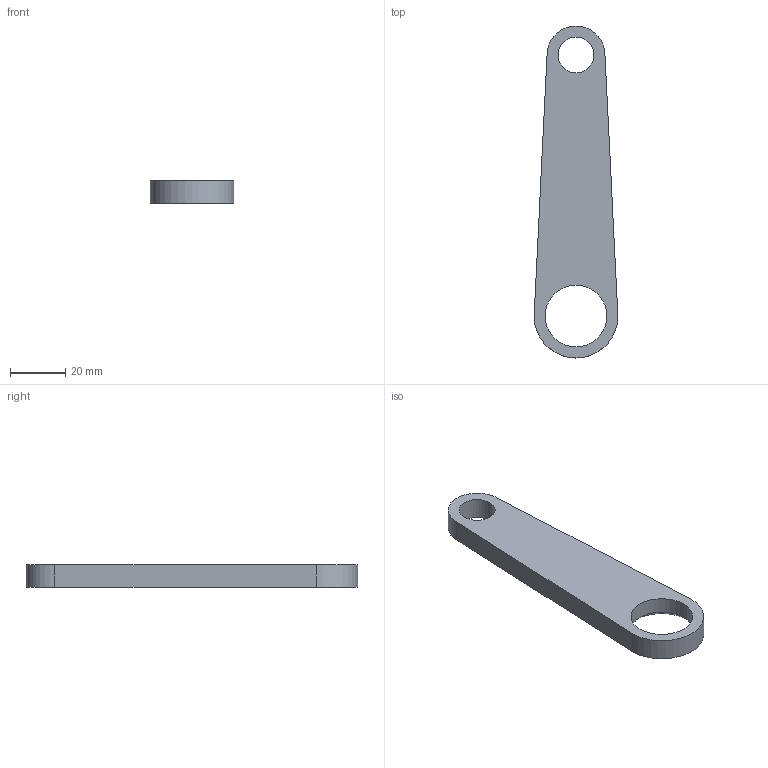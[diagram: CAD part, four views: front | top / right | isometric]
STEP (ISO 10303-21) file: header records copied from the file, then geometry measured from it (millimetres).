
FILE_DESCRIPTION(('STEP AP242 Edition 2','STEP AP242 Edition 2''CAx-IF Rec.Pracs.---Representation and Presentation of Product Manufacturing Information (PMI)---4.0---2014-10-13','STEP AP242 Edition 2''CAx-IF Rec.Pracs.---Representation and Presentation of Product Manufacturing Information (PMI)---4.0---2014-10-13''CAx-IF Rec.Pracs.---3D Tessellated Geometry---0.4---2014-09-14','STEP AP242 Edition 2''CAx-IF Rec.Pracs.---Representation and Presentation of Product Manufacturing Information (PMI)---4.0---2014-10-13''CAx-IF Rec.Pracs.---3D Tessellated Geometry---0.4---2014-09-14''2;1','STEP AP242 Edition 2''CAx-IF Rec.Pracs.---Representation and Presentation of Product Manufacturing Information (PMI)---4.0---2014-10-13''CAx-IF Rec.Pracs.---3D Tessellated Geometry---0.4---2014-09-14''2;1''CAx-IF Rec.Pracs.---User Defined Attributes---1.5---2016-08-15'),'2;1');
FILE_NAME('/vol/tmp/translate-1775843114321225475/Draw Bot V2 - L - L2 Arm.step','2026-03-21T23:30:43',(''),(''),'ST-DEVELOPER v20','ONSHAPE BY PTC INC, 1.212',' ');
FILE_SCHEMA(('AP242_MANAGED_MODEL_BASED_3D_ENGINEERING_MIM_LF { 1 0 10303 442 3 1 4 }'));
Length unit declared in the file: millimetre
Products named in the file (1): L - L2 Arm
Bounding box: 30.4 x 120.4 x 8 mm (x, y, z)
Volume: 19395.5 mm3; surface area: 7861.6 mm2
Topology: 1 solids, 1 shells, 9 faces, 20 edges, 13 vertices
Faces by surface type: plane 4, cylinder 4, cone 1
Full cylindrical faces by diameter (mm): 13 x1, 22.4 x1
Entity records: 270 total; most frequent: DIRECTION 46, CARTESIAN_POINT 40, ORIENTED_EDGE 34, AXIS2_PLACEMENT_3D 19, EDGE_CURVE 17, EDGE_LOOP 16, FACE_BOUND 16, VERTEX_POINT 13
